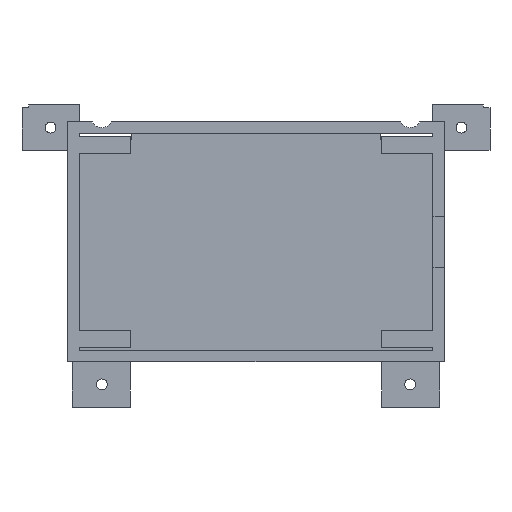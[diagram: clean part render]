
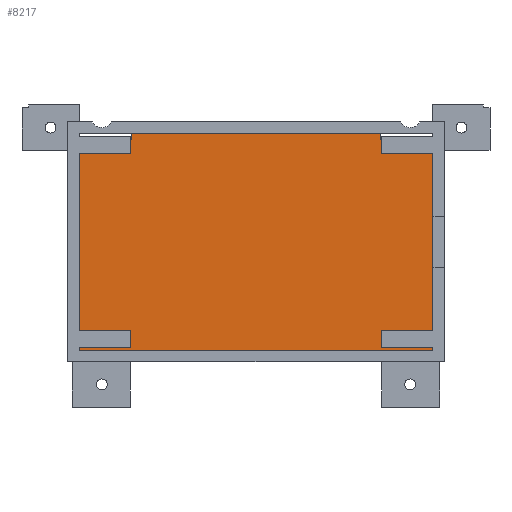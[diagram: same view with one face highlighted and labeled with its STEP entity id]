
A CAD part, front view. The second image highlights one B-rep face of the part: STEP entity #8217.
In plain terms, the highlighted planar face has unit normal (0, -1, 0).
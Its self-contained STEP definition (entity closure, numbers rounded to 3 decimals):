
#1358 = PLANE('',#1359);
#1359 = AXIS2_PLACEMENT_3D('',#1360,#1361,#1362);
#1360 = CARTESIAN_POINT('',(31.,-11.8,24.));
#1361 = DIRECTION('',(1.,0.,0.));
#1362 = DIRECTION('',(0.,0.,1.));
#1386 = PLANE('',#1387);
#1387 = AXIS2_PLACEMENT_3D('',#1388,#1389,#1390);
#1388 = CARTESIAN_POINT('',(21.9,-1.5,62.9));
#1389 = DIRECTION('',(0.,0.,1.));
#1390 = DIRECTION('',(1.,0.,0.));
#1413 = PLANE('',#1414);
#1414 = AXIS2_PLACEMENT_3D('',#1415,#1416,#1417);
#1415 = CARTESIAN_POINT('',(21.9,-1.5,62.9));
#1416 = DIRECTION('',(1.,0.,0.));
#1417 = DIRECTION('',(0.,0.,1.));
#1468 = PLANE('',#1469);
#1469 = AXIS2_PLACEMENT_3D('',#1470,#1471,#1472);
#1470 = CARTESIAN_POINT('',(-21.9,-1.5,62.9));
#1471 = DIRECTION('',(1.,0.,0.));
#1472 = DIRECTION('',(0.,0.,1.));
#1495 = PLANE('',#1496);
#1496 = AXIS2_PLACEMENT_3D('',#1497,#1498,#1499);
#1497 = CARTESIAN_POINT('',(-32.1,-1.5,62.9));
#1498 = DIRECTION('',(0.,0.,1.));
#1499 = DIRECTION('',(1.,0.,0.));
#1522 = PLANE('',#1523);
#1523 = AXIS2_PLACEMENT_3D('',#1524,#1525,#1526);
#1524 = CARTESIAN_POINT('',(-31.,-5.2,61.));
#1525 = DIRECTION('',(1.,0.,0.));
#1526 = DIRECTION('',(0.,0.,1.));
#2862 = PLANE('',#2863);
#2863 = AXIS2_PLACEMENT_3D('',#2864,#2865,#2866);
#2864 = CARTESIAN_POINT('',(-33.,-11.8,64.));
#2865 = DIRECTION('',(0.,0.,1.));
#2866 = DIRECTION('',(1.,0.,0.));
#3127 = PLANE('',#3128);
#3128 = AXIS2_PLACEMENT_3D('',#3129,#3130,#3131);
#3129 = CARTESIAN_POINT('',(-33.,-11.8,26.));
#3130 = DIRECTION('',(0.,0.,1.));
#3131 = DIRECTION('',(1.,0.,0.));
#4795 = VERTEX_POINT('',#4796);
#4796 = CARTESIAN_POINT('',(-31.,-1.2,26.));
#4817 = EDGE_CURVE('',#4795,#4818,#4820,.T.);
#4818 = VERTEX_POINT('',#4819);
#4819 = CARTESIAN_POINT('',(-31.,-1.2,62.9));
#4820 = SURFACE_CURVE('',#4821,(#4825,#4832),.PCURVE_S1.);
#4821 = LINE('',#4822,#4823);
#4822 = CARTESIAN_POINT('',(-31.,-1.2,26.));
#4823 = VECTOR('',#4824,1.);
#4824 = DIRECTION('',(0.,0.,1.));
#4825 = PCURVE('',#1522,#4826);
#4826 = DEFINITIONAL_REPRESENTATION('',(#4827),#4831);
#4827 = LINE('',#4828,#4829);
#4828 = CARTESIAN_POINT('',(-35.,-4.));
#4829 = VECTOR('',#4830,1.);
#4830 = DIRECTION('',(1.,0.));
#4831 = ( GEOMETRIC_REPRESENTATION_CONTEXT(2) 
PARAMETRIC_REPRESENTATION_CONTEXT() REPRESENTATION_CONTEXT('2D SPACE',''
  ) );
#4832 = PCURVE('',#4833,#4838);
#4833 = PLANE('',#4834);
#4834 = AXIS2_PLACEMENT_3D('',#4835,#4836,#4837);
#4835 = CARTESIAN_POINT('',(0.,-1.2,45.));
#4836 = DIRECTION('',(0.,-1.,0.));
#4837 = DIRECTION('',(1.,0.,0.));
#4838 = DEFINITIONAL_REPRESENTATION('',(#4839),#4843);
#4839 = LINE('',#4840,#4841);
#4840 = CARTESIAN_POINT('',(-31.,-19.));
#4841 = VECTOR('',#4842,1.);
#4842 = DIRECTION('',(0.,1.));
#4843 = ( GEOMETRIC_REPRESENTATION_CONTEXT(2) 
PARAMETRIC_REPRESENTATION_CONTEXT() REPRESENTATION_CONTEXT('2D SPACE',''
  ) );
#4872 = EDGE_CURVE('',#4873,#4818,#4875,.T.);
#4873 = VERTEX_POINT('',#4874);
#4874 = CARTESIAN_POINT('',(-21.9,-1.2,62.9));
#4875 = SURFACE_CURVE('',#4876,(#4880,#4886),.PCURVE_S1.);
#4876 = LINE('',#4877,#4878);
#4877 = CARTESIAN_POINT('',(-16.05,-1.2,62.9));
#4878 = VECTOR('',#4879,1.);
#4879 = DIRECTION('',(-1.,0.,0.));
#4880 = PCURVE('',#1495,#4881);
#4881 = DEFINITIONAL_REPRESENTATION('',(#4882),#4885);
#4882 = B_SPLINE_CURVE_WITH_KNOTS('',1,(#4883,#4884),.UNSPECIFIED.,.F.,
  .F.,(2,2),(5.85,14.95),.PIECEWISE_BEZIER_KNOTS.);
#4883 = CARTESIAN_POINT('',(10.2,0.3));
#4884 = CARTESIAN_POINT('',(1.1,0.3));
#4885 = ( GEOMETRIC_REPRESENTATION_CONTEXT(2) 
PARAMETRIC_REPRESENTATION_CONTEXT() REPRESENTATION_CONTEXT('2D SPACE',''
  ) );
#4886 = PCURVE('',#4833,#4887);
#4887 = DEFINITIONAL_REPRESENTATION('',(#4888),#4891);
#4888 = B_SPLINE_CURVE_WITH_KNOTS('',1,(#4889,#4890),.UNSPECIFIED.,.F.,
  .F.,(2,2),(5.85,14.95),.PIECEWISE_BEZIER_KNOTS.);
#4889 = CARTESIAN_POINT('',(-21.9,17.9));
#4890 = CARTESIAN_POINT('',(-31.,17.9));
#4891 = ( GEOMETRIC_REPRESENTATION_CONTEXT(2) 
PARAMETRIC_REPRESENTATION_CONTEXT() REPRESENTATION_CONTEXT('2D SPACE',''
  ) );
#4943 = VERTEX_POINT('',#4944);
#4944 = CARTESIAN_POINT('',(-21.9,-1.2,64.));
#4963 = EDGE_CURVE('',#4873,#4943,#4964,.T.);
#4964 = SURFACE_CURVE('',#4965,(#4969,#4975),.PCURVE_S1.);
#4965 = LINE('',#4966,#4967);
#4966 = CARTESIAN_POINT('',(-21.9,-1.2,53.95));
#4967 = VECTOR('',#4968,1.);
#4968 = DIRECTION('',(-0.,0.,1.));
#4969 = PCURVE('',#1468,#4970);
#4970 = DEFINITIONAL_REPRESENTATION('',(#4971),#4974);
#4971 = B_SPLINE_CURVE_WITH_KNOTS('',1,(#4972,#4973),.UNSPECIFIED.,.F.,
  .F.,(2,2),(8.95,10.05),.PIECEWISE_BEZIER_KNOTS.);
#4972 = CARTESIAN_POINT('',(0.,-0.3));
#4973 = CARTESIAN_POINT('',(1.1,-0.3));
#4974 = ( GEOMETRIC_REPRESENTATION_CONTEXT(2) 
PARAMETRIC_REPRESENTATION_CONTEXT() REPRESENTATION_CONTEXT('2D SPACE',''
  ) );
#4975 = PCURVE('',#4833,#4976);
#4976 = DEFINITIONAL_REPRESENTATION('',(#4977),#4980);
#4977 = B_SPLINE_CURVE_WITH_KNOTS('',1,(#4978,#4979),.UNSPECIFIED.,.F.,
  .F.,(2,2),(8.95,10.05),.PIECEWISE_BEZIER_KNOTS.);
#4978 = CARTESIAN_POINT('',(-21.9,17.9));
#4979 = CARTESIAN_POINT('',(-21.9,19.));
#4980 = ( GEOMETRIC_REPRESENTATION_CONTEXT(2) 
PARAMETRIC_REPRESENTATION_CONTEXT() REPRESENTATION_CONTEXT('2D SPACE',''
  ) );
#5144 = VERTEX_POINT('',#5145);
#5145 = CARTESIAN_POINT('',(21.9,-1.2,64.));
#5164 = EDGE_CURVE('',#5165,#5144,#5167,.T.);
#5165 = VERTEX_POINT('',#5166);
#5166 = CARTESIAN_POINT('',(21.9,-1.2,62.9));
#5167 = SURFACE_CURVE('',#5168,(#5172,#5178),.PCURVE_S1.);
#5168 = LINE('',#5169,#5170);
#5169 = CARTESIAN_POINT('',(21.9,-1.2,53.95));
#5170 = VECTOR('',#5171,1.);
#5171 = DIRECTION('',(-0.,0.,1.));
#5172 = PCURVE('',#1413,#5173);
#5173 = DEFINITIONAL_REPRESENTATION('',(#5174),#5177);
#5174 = B_SPLINE_CURVE_WITH_KNOTS('',1,(#5175,#5176),.UNSPECIFIED.,.F.,
  .F.,(2,2),(8.95,10.05),.PIECEWISE_BEZIER_KNOTS.);
#5175 = CARTESIAN_POINT('',(0.,-0.3));
#5176 = CARTESIAN_POINT('',(1.1,-0.3));
#5177 = ( GEOMETRIC_REPRESENTATION_CONTEXT(2) 
PARAMETRIC_REPRESENTATION_CONTEXT() REPRESENTATION_CONTEXT('2D SPACE',''
  ) );
#5178 = PCURVE('',#4833,#5179);
#5179 = DEFINITIONAL_REPRESENTATION('',(#5180),#5183);
#5180 = B_SPLINE_CURVE_WITH_KNOTS('',1,(#5181,#5182),.UNSPECIFIED.,.F.,
  .F.,(2,2),(8.95,10.05),.PIECEWISE_BEZIER_KNOTS.);
#5181 = CARTESIAN_POINT('',(21.9,17.9));
#5182 = CARTESIAN_POINT('',(21.9,19.));
#5183 = ( GEOMETRIC_REPRESENTATION_CONTEXT(2) 
PARAMETRIC_REPRESENTATION_CONTEXT() REPRESENTATION_CONTEXT('2D SPACE',''
  ) );
#5212 = EDGE_CURVE('',#5213,#5165,#5215,.T.);
#5213 = VERTEX_POINT('',#5214);
#5214 = CARTESIAN_POINT('',(31.,-1.2,62.9));
#5215 = SURFACE_CURVE('',#5216,(#5220,#5226),.PCURVE_S1.);
#5216 = LINE('',#5217,#5218);
#5217 = CARTESIAN_POINT('',(10.95,-1.2,62.9));
#5218 = VECTOR('',#5219,1.);
#5219 = DIRECTION('',(-1.,0.,0.));
#5220 = PCURVE('',#1386,#5221);
#5221 = DEFINITIONAL_REPRESENTATION('',(#5222),#5225);
#5222 = B_SPLINE_CURVE_WITH_KNOTS('',1,(#5223,#5224),.UNSPECIFIED.,.F.,
  .F.,(2,2),(-20.05,-10.95),.PIECEWISE_BEZIER_KNOTS.);
#5223 = CARTESIAN_POINT('',(9.1,0.3));
#5224 = CARTESIAN_POINT('',(0.,0.3));
#5225 = ( GEOMETRIC_REPRESENTATION_CONTEXT(2) 
PARAMETRIC_REPRESENTATION_CONTEXT() REPRESENTATION_CONTEXT('2D SPACE',''
  ) );
#5226 = PCURVE('',#4833,#5227);
#5227 = DEFINITIONAL_REPRESENTATION('',(#5228),#5231);
#5228 = B_SPLINE_CURVE_WITH_KNOTS('',1,(#5229,#5230),.UNSPECIFIED.,.F.,
  .F.,(2,2),(-20.05,-10.95),.PIECEWISE_BEZIER_KNOTS.);
#5229 = CARTESIAN_POINT('',(31.,17.9));
#5230 = CARTESIAN_POINT('',(21.9,17.9));
#5231 = ( GEOMETRIC_REPRESENTATION_CONTEXT(2) 
PARAMETRIC_REPRESENTATION_CONTEXT() REPRESENTATION_CONTEXT('2D SPACE',''
  ) );
#5258 = VERTEX_POINT('',#5259);
#5259 = CARTESIAN_POINT('',(31.,-1.2,26.));
#5280 = EDGE_CURVE('',#5213,#5258,#5281,.T.);
#5281 = SURFACE_CURVE('',#5282,(#5286,#5293),.PCURVE_S1.);
#5282 = LINE('',#5283,#5284);
#5283 = CARTESIAN_POINT('',(31.,-1.2,62.9));
#5284 = VECTOR('',#5285,1.);
#5285 = DIRECTION('',(0.,0.,-1.));
#5286 = PCURVE('',#1358,#5287);
#5287 = DEFINITIONAL_REPRESENTATION('',(#5288),#5292);
#5288 = LINE('',#5289,#5290);
#5289 = CARTESIAN_POINT('',(38.9,-10.6));
#5290 = VECTOR('',#5291,1.);
#5291 = DIRECTION('',(-1.,0.));
#5292 = ( GEOMETRIC_REPRESENTATION_CONTEXT(2) 
PARAMETRIC_REPRESENTATION_CONTEXT() REPRESENTATION_CONTEXT('2D SPACE',''
  ) );
#5293 = PCURVE('',#4833,#5294);
#5294 = DEFINITIONAL_REPRESENTATION('',(#5295),#5299);
#5295 = LINE('',#5296,#5297);
#5296 = CARTESIAN_POINT('',(31.,17.9));
#5297 = VECTOR('',#5298,1.);
#5298 = DIRECTION('',(0.,-1.));
#5299 = ( GEOMETRIC_REPRESENTATION_CONTEXT(2) 
PARAMETRIC_REPRESENTATION_CONTEXT() REPRESENTATION_CONTEXT('2D SPACE',''
  ) );
#7428 = EDGE_CURVE('',#4943,#5144,#7429,.T.);
#7429 = SURFACE_CURVE('',#7430,(#7434,#7441),.PCURVE_S1.);
#7430 = LINE('',#7431,#7432);
#7431 = CARTESIAN_POINT('',(-31.,-1.2,64.));
#7432 = VECTOR('',#7433,1.);
#7433 = DIRECTION('',(1.,0.,0.));
#7434 = PCURVE('',#2862,#7435);
#7435 = DEFINITIONAL_REPRESENTATION('',(#7436),#7440);
#7436 = LINE('',#7437,#7438);
#7437 = CARTESIAN_POINT('',(2.,10.6));
#7438 = VECTOR('',#7439,1.);
#7439 = DIRECTION('',(1.,0.));
#7440 = ( GEOMETRIC_REPRESENTATION_CONTEXT(2) 
PARAMETRIC_REPRESENTATION_CONTEXT() REPRESENTATION_CONTEXT('2D SPACE',''
  ) );
#7441 = PCURVE('',#4833,#7442);
#7442 = DEFINITIONAL_REPRESENTATION('',(#7443),#7447);
#7443 = LINE('',#7444,#7445);
#7444 = CARTESIAN_POINT('',(-31.,19.));
#7445 = VECTOR('',#7446,1.);
#7446 = DIRECTION('',(1.,0.));
#7447 = ( GEOMETRIC_REPRESENTATION_CONTEXT(2) 
PARAMETRIC_REPRESENTATION_CONTEXT() REPRESENTATION_CONTEXT('2D SPACE',''
  ) );
#7705 = EDGE_CURVE('',#5258,#4795,#7706,.T.);
#7706 = SURFACE_CURVE('',#7707,(#7711,#7718),.PCURVE_S1.);
#7707 = LINE('',#7708,#7709);
#7708 = CARTESIAN_POINT('',(31.,-1.2,26.));
#7709 = VECTOR('',#7710,1.);
#7710 = DIRECTION('',(-1.,0.,0.));
#7711 = PCURVE('',#3127,#7712);
#7712 = DEFINITIONAL_REPRESENTATION('',(#7713),#7717);
#7713 = LINE('',#7714,#7715);
#7714 = CARTESIAN_POINT('',(64.,10.6));
#7715 = VECTOR('',#7716,1.);
#7716 = DIRECTION('',(-1.,0.));
#7717 = ( GEOMETRIC_REPRESENTATION_CONTEXT(2) 
PARAMETRIC_REPRESENTATION_CONTEXT() REPRESENTATION_CONTEXT('2D SPACE',''
  ) );
#7718 = PCURVE('',#4833,#7719);
#7719 = DEFINITIONAL_REPRESENTATION('',(#7720),#7724);
#7720 = LINE('',#7721,#7722);
#7721 = CARTESIAN_POINT('',(31.,-19.));
#7722 = VECTOR('',#7723,1.);
#7723 = DIRECTION('',(-1.,0.));
#7724 = ( GEOMETRIC_REPRESENTATION_CONTEXT(2) 
PARAMETRIC_REPRESENTATION_CONTEXT() REPRESENTATION_CONTEXT('2D SPACE',''
  ) );
#8217 = ADVANCED_FACE('',(#8218),#4833,.T.);
#8218 = FACE_BOUND('',#8219,.T.);
#8219 = EDGE_LOOP('',(#8220,#8221,#8222,#8223,#8224,#8225,#8226,#8227));
#8220 = ORIENTED_EDGE('',*,*,#5280,.F.);
#8221 = ORIENTED_EDGE('',*,*,#5212,.T.);
#8222 = ORIENTED_EDGE('',*,*,#5164,.T.);
#8223 = ORIENTED_EDGE('',*,*,#7428,.F.);
#8224 = ORIENTED_EDGE('',*,*,#4963,.F.);
#8225 = ORIENTED_EDGE('',*,*,#4872,.T.);
#8226 = ORIENTED_EDGE('',*,*,#4817,.F.);
#8227 = ORIENTED_EDGE('',*,*,#7705,.F.);
